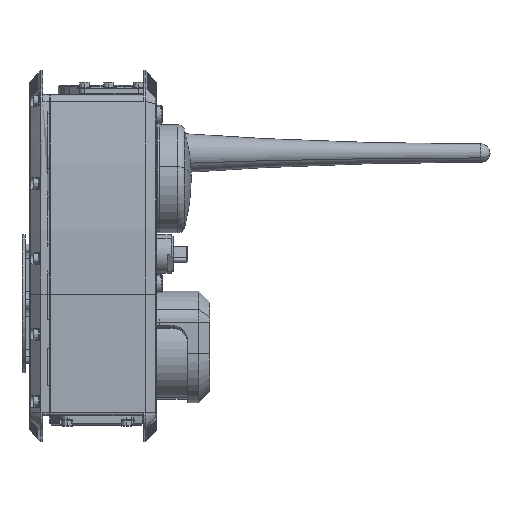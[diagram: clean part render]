
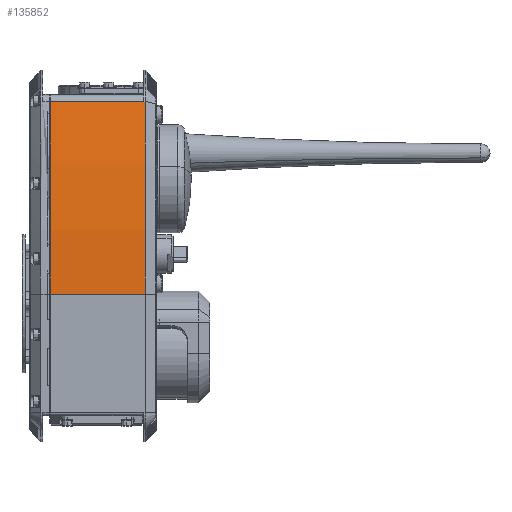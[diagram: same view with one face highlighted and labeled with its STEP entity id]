
A CAD part, left-side view. The second image highlights one B-rep face of the part: STEP entity #135852.
In plain terms, the highlighted cylindrical face has radius 500 mm (diameter 1000 mm), a partial arc.
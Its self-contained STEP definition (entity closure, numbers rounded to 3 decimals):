
#1207 = VERTEX_POINT ( 'NONE', #143237 ) ;
#3303 = DIRECTION ( 'NONE',  ( 0., -1., 0. ) ) ;
#5410 = DIRECTION ( 'NONE',  ( 0., -1., 0. ) ) ;
#10310 = CARTESIAN_POINT ( 'NONE',  ( -134., 6., 33.226 ) ) ;
#15050 = EDGE_CURVE ( 'NONE', #123472, #77499, #46828, .T. ) ;
#18451 = CIRCLE ( 'NONE', #65357, 500. ) ;
#19085 = EDGE_CURVE ( 'NONE', #34392, #123472, #37902, .T. ) ;
#19450 = ORIENTED_EDGE ( 'NONE', *, *, #74209, .F. ) ;
#25138 = CARTESIAN_POINT ( 'NONE',  ( -122.889, 7., 138.048 ) ) ;
#26888 = CARTESIAN_POINT ( 'NONE',  ( -134., 57.8, 33.226 ) ) ;
#28420 = EDGE_CURVE ( 'NONE', #34392, #54709, #131945, .T. ) ;
#34392 = VERTEX_POINT ( 'NONE', #142226 ) ;
#37902 = CIRCLE ( 'NONE', #64080, 500. ) ;
#42264 = CARTESIAN_POINT ( 'NONE',  ( 366., 7., 33.226 ) ) ;
#46828 = LINE ( 'NONE', #93178, #50851 ) ;
#49938 = VECTOR ( 'NONE', #65469, 1000. ) ;
#50851 = VECTOR ( 'NONE', #3303, 1000. ) ;
#51432 = CARTESIAN_POINT ( 'NONE',  ( -122.889, 253.362, 138.048 ) ) ;
#54709 = VERTEX_POINT ( 'NONE', #25138 ) ;
#60206 = DIRECTION ( 'NONE',  ( 0., 0., 1. ) ) ;
#64080 = AXIS2_PLACEMENT_3D ( 'NONE', #159073, #160152, #119397 ) ;
#65342 = DIRECTION ( 'NONE',  ( 0., -1., 0. ) ) ;
#65357 = AXIS2_PLACEMENT_3D ( 'NONE', #86982, #123307, #60206 ) ;
#65469 = DIRECTION ( 'NONE',  ( 0., -1., 0. ) ) ;
#74209 = EDGE_CURVE ( 'NONE', #54709, #1207, #139073, .T. ) ;
#74246 = ORIENTED_EDGE ( 'NONE', *, *, #15050, .T. ) ;
#77499 = VERTEX_POINT ( 'NONE', #10310 ) ;
#78969 = ORIENTED_EDGE ( 'NONE', *, *, #84973, .T. ) ;
#80088 = FACE_OUTER_BOUND ( 'NONE', #154571, .T. ) ;
#80929 = AXIS2_PLACEMENT_3D ( 'NONE', #42264, #5410, #157360 ) ;
#81828 = ORIENTED_EDGE ( 'NONE', *, *, #28420, .F. ) ;
#84973 = EDGE_CURVE ( 'NONE', #77499, #1207, #18451, .T. ) ;
#86982 = CARTESIAN_POINT ( 'NONE',  ( 366., 6., 33.226 ) ) ;
#93041 = VECTOR ( 'NONE', #65342, 1000. ) ;
#93178 = CARTESIAN_POINT ( 'NONE',  ( -134., 7., 33.226 ) ) ;
#102911 = CARTESIAN_POINT ( 'NONE',  ( -122.889, 7., 138.048 ) ) ;
#119397 = DIRECTION ( 'NONE',  ( 0., 0., 1. ) ) ;
#123307 = DIRECTION ( 'NONE',  ( 0., 1., 0. ) ) ;
#123472 = VERTEX_POINT ( 'NONE', #26888 ) ;
#131945 = LINE ( 'NONE', #102911, #49938 ) ;
#135852 = ADVANCED_FACE ( 'NONE', ( #80088 ), #156143, .T. ) ;
#139073 = LINE ( 'NONE', #51432, #93041 ) ;
#142226 = CARTESIAN_POINT ( 'NONE',  ( -122.889, 57.8, 138.048 ) ) ;
#143237 = CARTESIAN_POINT ( 'NONE',  ( -122.889, 6., 138.048 ) ) ;
#147079 = ORIENTED_EDGE ( 'NONE', *, *, #19085, .T. ) ;
#154571 = EDGE_LOOP ( 'NONE', ( #81828, #147079, #74246, #78969, #19450 ) ) ;
#156143 = CYLINDRICAL_SURFACE ( 'NONE', #80929, 500. ) ;
#157360 = DIRECTION ( 'NONE',  ( 0., 0., -1. ) ) ;
#159073 = CARTESIAN_POINT ( 'NONE',  ( 366., 57.8, 33.226 ) ) ;
#160152 = DIRECTION ( 'NONE',  ( 0., -1., 0. ) ) ;
